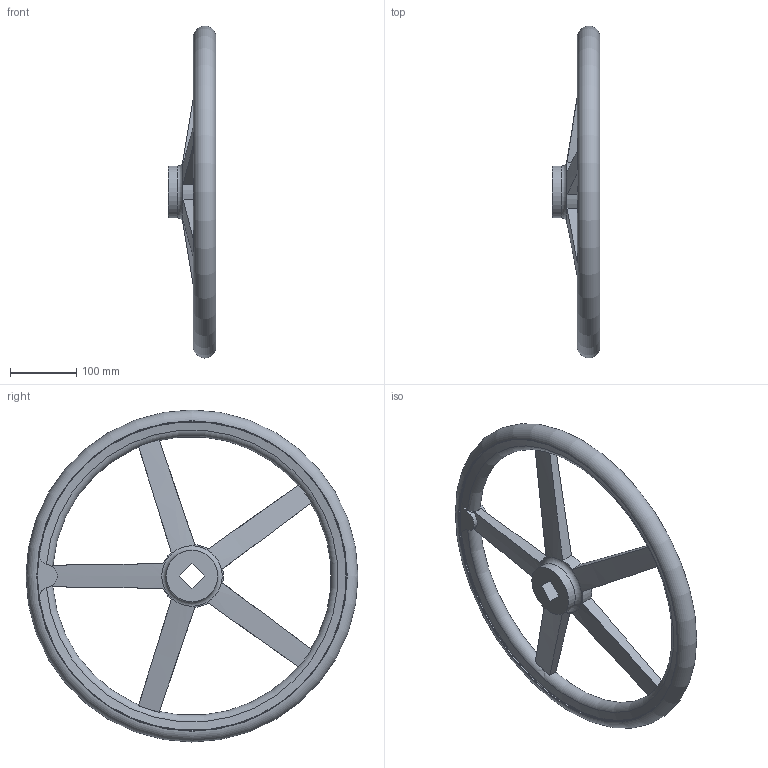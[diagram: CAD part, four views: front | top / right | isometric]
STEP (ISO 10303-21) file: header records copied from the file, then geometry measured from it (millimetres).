
FILE_DESCRIPTION( ( 'STEP AP203' ), '1' );
FILE_NAME( 'C:/Temp/Ganter_Step_05_03_2020/data/1_3/din_950/din_950_v/din_950_v_a/Handwheel DIN 950-AL-500-V27-A.stp', '2020-03-05T10:31:35', ( 'License CC BY-ND 4.0' ), ( 'CADENAS' ), ' ', 'PARTsolutions', ' ' );
FILE_SCHEMA( ( 'CONFIG_CONTROL_DESIGN' ) );
Length unit declared in the file: millimetre
Products named in the file (1): _Handwheel DIN 950-AL-500-V27-A
Bounding box: 72 x 499.99 x 499.99 mm (x, y, z)
Volume: 2098218.7 mm3; surface area: 280271.3 mm2
Topology: 1 solids, 1 shells, 57 faces, 173 edges, 112 vertices
Faces by surface type: torus 20, plane 18, cylinder 15, cone 4
Full cylindrical faces by diameter (mm): 78 x2, 466 x2
Entity records: 2430 total; most frequent: CARTESIAN_POINT 981, ORIENTED_EDGE 312, DIRECTION 258, EDGE_CURVE 156, AXIS2_PLACEMENT_3D 116, VERTEX_POINT 109, EDGE_LOOP 76, B_SPLINE_CURVE_WITH_KNOTS 72
